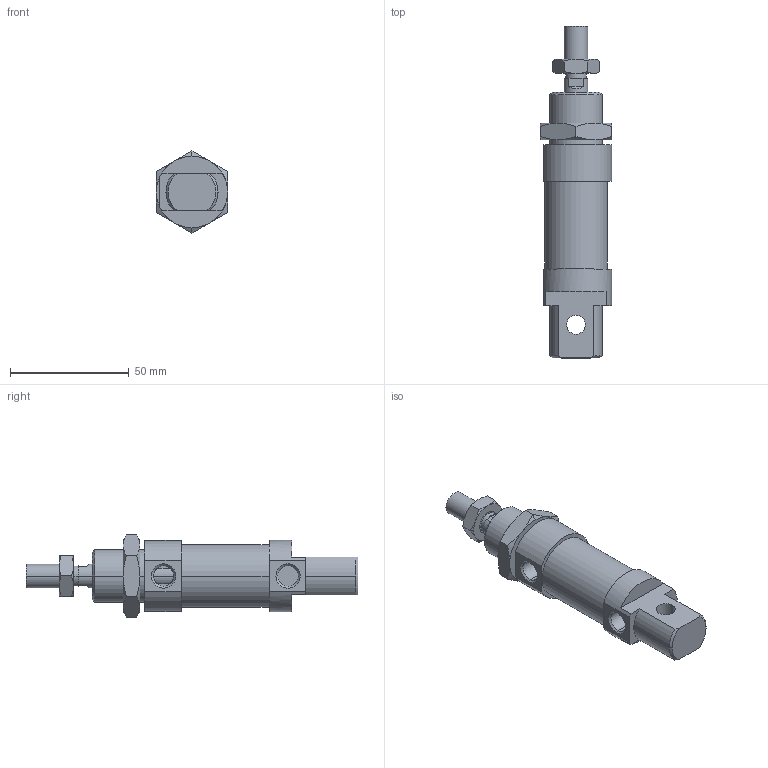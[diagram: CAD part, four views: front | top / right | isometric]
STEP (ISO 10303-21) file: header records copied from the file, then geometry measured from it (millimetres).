
FILE_DESCRIPTION((''),'2;1');
FILE_NAME('I:\DOC-EDP\Lib-3d\1200\CILINDRI\1280\1280_25_0000.stp','2003-04-07T17:59:29',('maffial1'),(''),'Autodesk Inventor (R) 6.0','Autodesk Inventor (R) 6.0','');
FILE_SCHEMA(('AUTOMOTIVE_DESIGN { 1 0 10303 214 1 1 1 1 }'));
Length unit declared in the file: millimetre
Products named in the file (5): 1280_25_0000; S1280_25_0; 1200_25_05; 1200_25_06; C1280_25_0
Assembly tree (4 placements, depth 2):
  1280_25_0000
    S1280_25_0
    1200_25_05
    1200_25_06
    C1280_25_0
Bounding box: 30 x 140 x 34.64 mm (x, y, z)
Volume: 60087.1 mm3; surface area: 17426 mm2
Topology: 4 solids, 4 shells, 124 faces, 281 edges, 170 vertices
Faces by surface type: plane 41, cone 40, cylinder 22, bspline 21
Entity records: 3808 total; most frequent: CARTESIAN_POINT 1031, DIRECTION 573, ORIENTED_EDGE 562, EDGE_CURVE 281, AXIS2_PLACEMENT_3D 236, VERTEX_POINT 170, EDGE_LOOP 137, FACE_OUTER_BOUND 124
